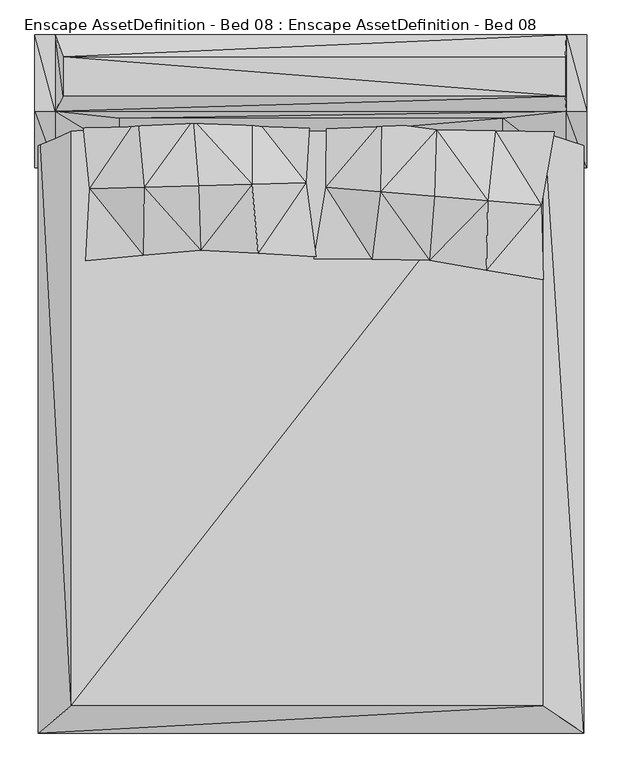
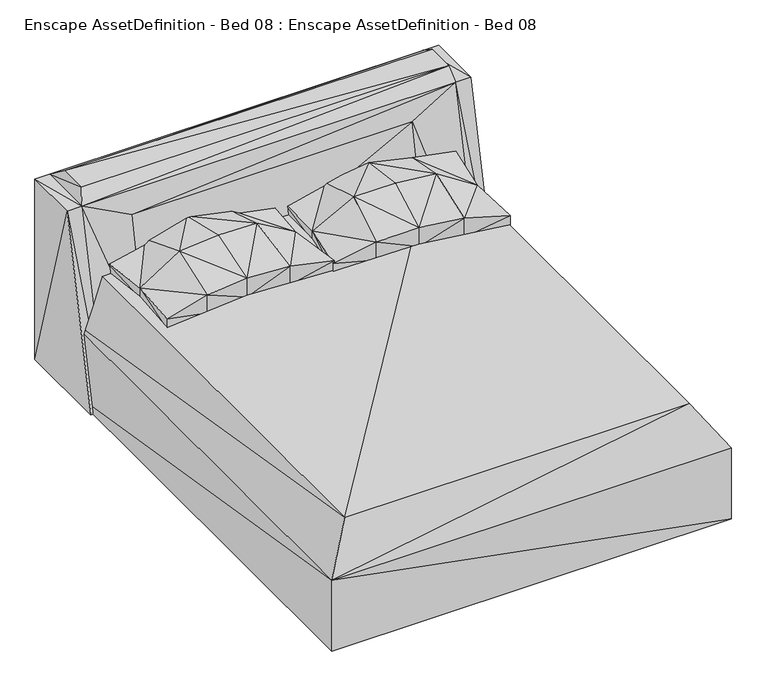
"""IFC4 building model written with IfcOpenShell, lengths in millimetres: geographic element geometry, Enscape AssetDefinition - Bed 08 : Enscape AssetDefinition - Bed 08."""

from ifc_helpers import new_model, si_unit, origin, place, context, project, spatial, faceted_brep, source, transform, mapped, element, save


def enscape_assetdefinition_bed_08_enscape_assetdefinition_bed_ef56958e(model_context):
    return source(origin(), model_context, "Body", "Brep", [
        faceted_brep([(215.4330164, 360.0923121, 575.9325624), (9.1486191, 363.3991182, 575.9325624), (52.5260866, 617.6543832, 575.9325624), (9.1486191, 363.3991182, 628.8858652), (52.5260866, 617.6543832, 628.6066771), (53.4399599, 876.5852451, 628.8858056), (53.4399599, 876.5852451, 575.9325624), (249.9589026, 849.1058946, 575.9325624), (421.7174053, 356.785506, 575.9325624), (215.4330462, 360.0923121, 668.721199), (245.8342761, 601.6440988, 748.454392), (249.9589324, 849.1058946, 668.7211394), (446.4778602, 821.6266632, 575.9325624), (446.47789, 821.6266632, 719.9787498), (439.1424358, 585.6338143, 759.7435117), (421.7175245, 356.785506, 675.0145555), (629.930675, 569.9010491, 751.8805265), (624.5645285, 322.2611248, 672.147274), (656.5237045, 818.2204366, 672.1472144), (656.5235853, 818.2204366, 575.9325624), (820.7188845, 554.1682243, 635.458827), (866.5694594, 814.8142695, 635.7380152), (624.5644689, 322.2611248, 575.9325624), (827.4114728, 287.7367437, 635.7380152), (820.7188845, 554.1682243, 575.9325624), (866.5694594, 814.8142695, 575.9325624), (827.4114728, 287.7367437, 575.9325624)], [[[0, 1, 2]], [[3, 1, 0]], [[4, 2, 1]], [[4, 1, 3]], [[5, 6, 2]], [[7, 2, 6]], [[0, 2, 7]], [[5, 2, 4]], [[0, 7, 8]], [[9, 0, 8]], [[3, 0, 9]], [[4, 3, 9]], [[10, 11, 4]], [[4, 9, 10]], [[4, 11, 5]], [[11, 7, 5]], [[5, 7, 6]], [[11, 12, 7]], [[8, 7, 12]], [[13, 12, 11]], [[10, 13, 11]], [[10, 14, 13]], [[10, 9, 15]], [[10, 15, 14]], [[9, 8, 15]], [[14, 15, 16]], [[15, 8, 17]], [[16, 15, 17]], [[16, 13, 14]], [[16, 18, 13]], [[18, 12, 13]], [[18, 19, 12]], [[19, 8, 12]], [[16, 20, 18]], [[21, 19, 18]], [[18, 20, 21]], [[16, 17, 20]], [[17, 22, 23]], [[17, 8, 22]], [[20, 17, 23]], [[20, 24, 25]], [[23, 24, 20]], [[20, 25, 21]], [[21, 25, 19]], [[24, 19, 25]], [[19, 24, 22]], [[19, 22, 8]], [[22, 24, 26]], [[23, 22, 26]], [[23, 26, 24]]]),
        faceted_brep([(-600.1962423, 374.5915592, 579.6854496), (-805.6033254, 355.3009629, 579.6854496), (-790.3143167, 612.7763391, 579.6854496), (-805.6033254, 355.3009629, 632.6387525), (-790.3143167, 612.7763391, 632.3595643), (-817.7455068, 870.2516556, 632.6386929), (-817.7455068, 870.2516556, 579.6854496), (-619.3996072, 864.4462228, 579.6854496), (-394.7891891, 393.8821554, 579.6854496), (-600.1961827, 374.5915592, 672.4740863), (-596.4151025, 618.0195808, 752.2072792), (-619.3995476, 864.4462228, 672.4740267), (-421.0536778, 858.6407304, 579.6854496), (-421.0536182, 858.6407304, 723.731637), (-402.5159478, 623.262763, 763.4963989), (-394.7890699, 393.8821554, 678.7674427), (-211.1519426, 628.5059452, 755.6334138), (-189.3820167, 381.7664683, 675.9001613), (-211.8969113, 878.2441616, 675.9001017), (-211.8969262, 878.2441616, 579.6854496), (-19.7879411, 633.749187, 639.2117143), (-2.7401901, 897.8475928, 639.4909024), (-189.3820763, 381.7664683, 579.6854496), (16.0250328, 369.650811, 639.4909024), (-19.7879411, 633.749187, 579.6854496), (-2.7401901, 897.8475928, 579.6854496), (16.0250328, 369.650811, 579.6854496)], [[[0, 1, 2]], [[3, 1, 0]], [[4, 2, 1]], [[4, 1, 3]], [[5, 6, 2]], [[7, 2, 6]], [[0, 2, 7]], [[5, 2, 4]], [[0, 7, 8]], [[9, 0, 8]], [[3, 0, 9]], [[4, 3, 9]], [[10, 11, 4]], [[4, 9, 10]], [[4, 11, 5]], [[11, 7, 5]], [[5, 7, 6]], [[11, 12, 7]], [[8, 7, 12]], [[13, 12, 11]], [[10, 13, 11]], [[10, 14, 13]], [[10, 9, 15]], [[10, 15, 14]], [[9, 8, 15]], [[14, 15, 16]], [[15, 8, 17]], [[16, 15, 17]], [[16, 13, 14]], [[16, 18, 13]], [[18, 12, 13]], [[18, 19, 12]], [[19, 8, 12]], [[16, 20, 18]], [[21, 19, 18]], [[18, 20, 21]], [[16, 17, 20]], [[17, 22, 23]], [[17, 8, 22]], [[20, 17, 23]], [[20, 24, 25]], [[23, 24, 20]], [[20, 25, 21]], [[21, 25, 19]], [[24, 19, 25]], [[19, 24, 22]], [[19, 22, 8]], [[22, 24, 26]], [[23, 22, 26]], [[23, 26, 24]]]),
        faceted_brep([(-913.7246609, 686.9466901, 0.0007815), (-913.7246609, 1160.4068279, 0.000779), (909.5356464, 1160.4068279, 0.000779), (909.5357656, 1160.4068279, 930.9213161), (-986.2044454, 686.9466901, 0.0007815), (-913.7246609, 1160.4068279, 930.9213161), (-986.2044454, 1160.4068279, 0.000779), (-986.2044454, 888.3060813, 930.9213161), (-986.2044454, 1160.4068279, 930.9213161), (-913.7246609, 888.3060813, 930.9213161), (-885.9456182, 1082.6342106, 985.2178097), (-885.945797, 941.8398142, 985.2178097), (905.3775072, 941.8398142, 985.2178097), (-686.4426732, 862.9823923, 821.7744231), (-686.4426732, 748.922646, 224.1453677), (909.5356464, 888.3060813, 930.9213161), (905.377686, 1082.6342106, 985.2178097), (982.0153713, 888.3060813, 930.9213161), (982.0153713, 1160.4068279, 930.9213161), (982.0153713, 686.9466901, 0.0007815), (982.0153713, 1160.4068279, 0.000779), (909.5357656, 686.9466901, 0.0007815), (682.2535992, 748.922646, 224.1453677), (682.2535992, 862.9823923, 821.7744231)], [[[0, 1, 2]], [[3, 2, 1]], [[1, 0, 4]], [[5, 1, 6]], [[3, 1, 5]], [[1, 4, 6]], [[7, 6, 4]], [[0, 7, 4]], [[8, 6, 7]], [[5, 6, 8]], [[9, 5, 8]], [[10, 5, 11]], [[10, 3, 5]], [[11, 5, 9]], [[9, 8, 7]], [[0, 9, 7]], [[11, 9, 12]], [[13, 9, 14]], [[12, 9, 15]], [[13, 15, 9]], [[14, 9, 0]], [[10, 11, 12]], [[16, 3, 10]], [[10, 12, 16]], [[12, 15, 16]], [[16, 15, 3]], [[3, 15, 17]], [[2, 3, 18]], [[3, 17, 18]], [[17, 19, 18]], [[15, 19, 17]], [[18, 19, 20]], [[2, 18, 20]], [[21, 2, 20]], [[0, 2, 21]], [[21, 20, 19]], [[15, 21, 19]], [[22, 21, 23]], [[22, 0, 21]], [[23, 21, 15]], [[23, 13, 14]], [[23, 15, 13]], [[23, 14, 22]], [[14, 0, 22]]]),
        faceted_brep([(972.2764492, 919.1477895, 0.0), (-975.107193, 919.1477895, 0.0), (-975.107193, 919.1476107, 366.0261631), (-975.107193, -1327.6611567, 366.0260737), (-975.107193, -1327.6613951, 0.0), (972.2764492, -1327.6613951, 0.0), (972.2764492, 919.1476107, 366.0261929), (824.5812654, -1230.6720018, 589.5060301), (824.5812654, 919.1474915, 589.5061493), (-855.9914231, -1230.6720018, 589.5060301), (-855.9914231, 919.1474915, 589.5061493), (972.2764492, -1327.6611567, 366.0260737)], [[[0, 1, 2]], [[3, 4, 5]], [[4, 1, 5]], [[5, 0, 6]], [[7, 8, 9]], [[9, 10, 2]], [[6, 2, 10]], [[3, 11, 7]], [[11, 6, 8]], [[3, 2, 1]], [[0, 2, 6]], [[3, 5, 11]], [[5, 1, 0]], [[5, 6, 11]], [[9, 8, 10]], [[9, 2, 3]], [[6, 10, 8]], [[3, 7, 9]], [[11, 8, 7]], [[3, 1, 4]]]),
    ])


if __name__ == "__main__":
    model = new_model("IFC4")
    model_context = context("Model", 3, world=origin())
    ifc_project = project(units=[si_unit("LENGTHUNIT", "METRE", prefix="MILLI")], contexts=[model_context])
    site = spatial("IfcSite", under=ifc_project)
    building = spatial("IfcBuilding", under=site)
    placement = place(None, origin())
    enscape_assetdefinition_bed_08_enscape_assetdefinition_bed_shape = enscape_assetdefinition_bed_08_enscape_assetdefinition_bed_ef56958e(model_context)
    element("IfcGeographicElement", 1, ObjectType="Enscape AssetDefinition - Bed 08 : Enscape AssetDefinition - Bed 08", at=placement, inside=building, context=model_context, shape_type="MappedRepresentation", body=[
        mapped(enscape_assetdefinition_bed_08_enscape_assetdefinition_bed_shape, transform((0.0, 0.0, 0.0), x_axis=(1.0, 0.0, 0.0), y_axis=(0.0, 1.0, 0.0), z_axis=(0.0, 0.0, 1.0))),
    ])
    save(model, "model.ifc")
